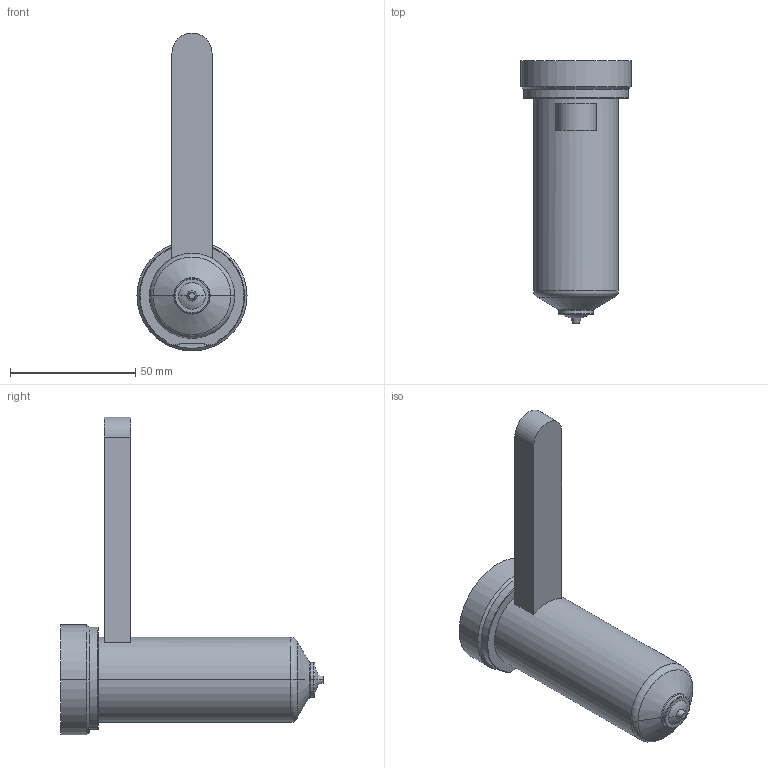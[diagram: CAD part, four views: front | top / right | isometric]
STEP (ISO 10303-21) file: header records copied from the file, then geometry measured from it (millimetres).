
FILE_DESCRIPTION((''),'2;1');
FILE_NAME('EO10_VG-BL_STD_090_COT','2024-02-19T13:09:01',('sundharh'),(''),'CREO PARAMETRIC BY PTC INC, 2023154','CREO PARAMETRIC BY PTC INC, 2023154','');
FILE_SCHEMA(('CONFIG_CONTROL_DESIGN'));
Length unit declared in the file: millimetre
Products named in the file (1): EO10_VG-BL_STD_090_COT
Bounding box: 44 x 105 x 127 mm (x, y, z)
Volume: 111327.4 mm3; surface area: 18180.7 mm2
Topology: 1 solids, 1 shells, 38 faces, 81 edges, 48 vertices
Faces by surface type: cylinder 11, plane 10, torus 9, cone 6, sphere 2
Entity records: 1143 total; most frequent: CARTESIAN_POINT 255, DIRECTION 199, ORIENTED_EDGE 162, AXIS2_PLACEMENT_3D 86, EDGE_CURVE 81, VERTEX_POINT 48, CIRCLE 48, EDGE_LOOP 41
